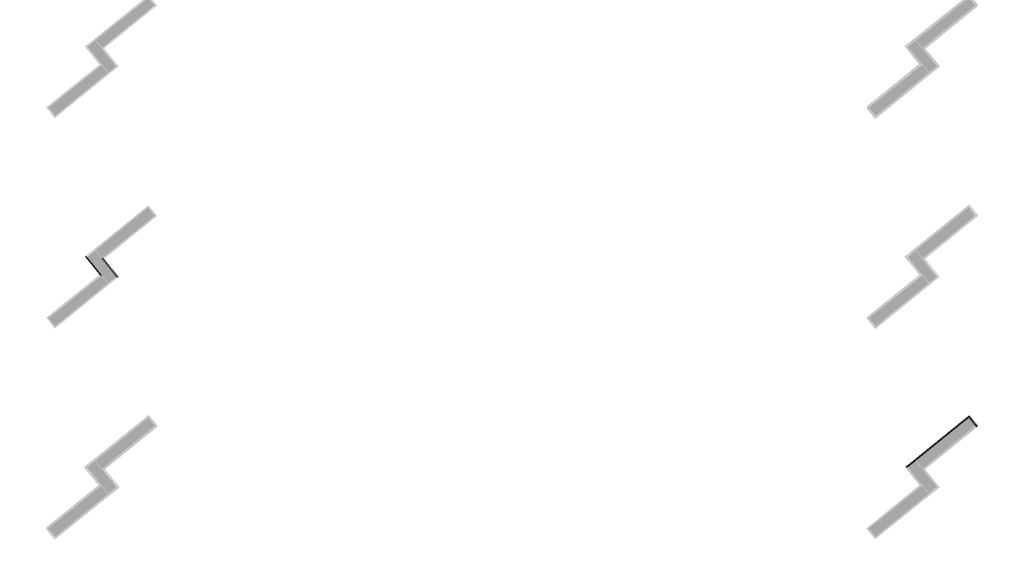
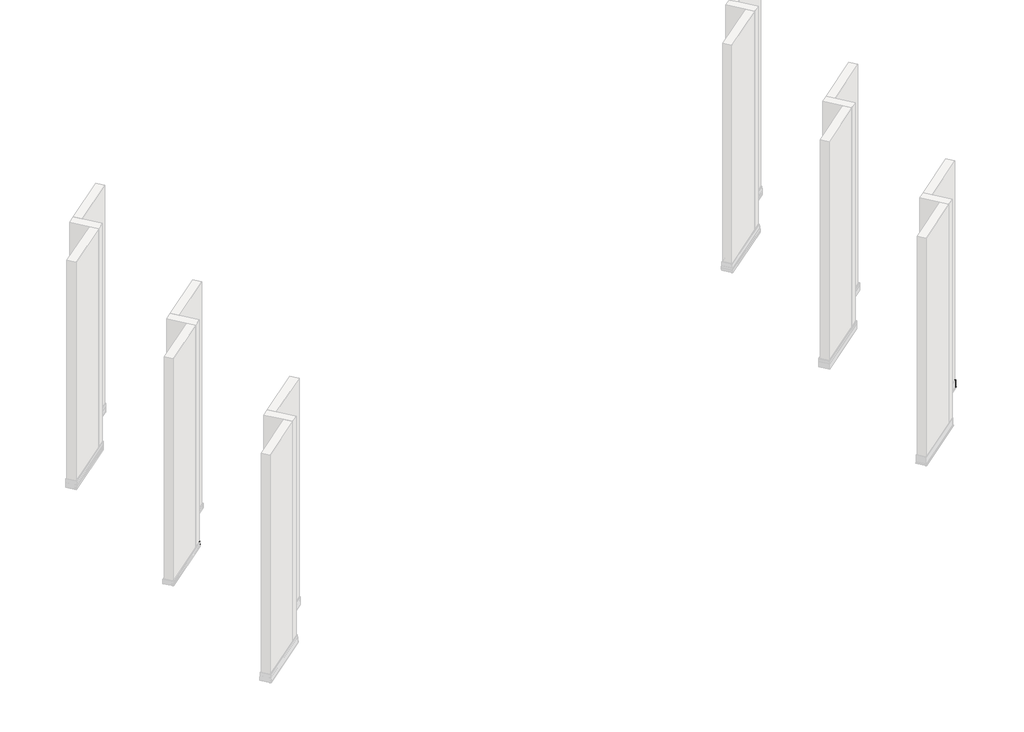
# One storey, part 5 of 21: 3 proxies.
"""IFC4 building model written with IfcOpenShell, lengths in millimetres."""

from ifc_helpers import new_model, si_unit, frame, origin, place, context, project, spatial, polyline, circle_curve, ellipse_curve, element, save
from ifc_brep_helpers import plane_surface, cylinder_surface, revolved_surface, advanced_brep

model = new_model("IFC4")

# Units and contexts
model_context = context("Model", 3, world=origin())
ifc_project = project(units=[si_unit("LENGTHUNIT", "METRE", prefix="MILLI")], contexts=[model_context])

# Site, building, storey
site = spatial("IfcSite", under=ifc_project)
building = spatial("IfcBuilding", under=site)
storey = spatial("IfcBuildingStorey", under=building, Name="Izofleks 2D View", Elevation=0.0)

# Proxies
placement = place(None, origin())
element("IfcBuildingElementProxy", 1, Name="Wall Sweeps", at=placement, inside=storey, context=model_context, shape_type="AdvancedBrep", body=[
    advanced_brep(
    [(2292.1668459, -7174.088255, 49.8941385), (2293.8573559, -7174.2659347, 56.3978398), (2295.2404015, -7174.4112987, 57.2161063), (2298.9439622, -7174.8005586, 57.2161063), (2298.9439622, -7174.8005586, 58.5), (2289.5206376, -7173.8101273, 58.5), (2289.5206376, -7173.8101273, 60.0), (2300.7723685, -7174.9927318, 60.0), (2300.7723685, -7174.9927318, 2.9583289), (2297.9590138, -7174.6970364, 2.9583289), (2297.9590138, -7174.6970364, 0.4656126), (2296.1306076, -7174.5048631, 0.4656126), (2296.1306076, -7174.5048631, 4.2583289), (2298.9439622, -7174.8005586, 4.2583289), (2298.9439622, -7174.8005586, 28.7655004), (2295.5576132, -7174.444639, 28.7655004), (2295.2879611, -7174.4162974, 27.7479135), (2296.6513787, -7174.5595984, 27.7479135), (2297.3367663, -7174.6316355, 27.1404306), (2294.6001982, -7174.3440106, 18.30079), (2296.8922655, -7174.5849166, 18.30079), (2296.8983438, -7174.5855554, 16.99999), (2289.8664199, -7173.8464705, 16.99999), (2289.8664199, -7173.8464705, 0.0), (2288.0380278, -7173.6542987, 0.0), (2288.0380278, -7173.6542987, 54.99999), (2289.8664199, -7173.8464705, 53.99999), (2289.8664199, -7173.8464705, 47.88979), (2292.7262724, -7174.1470531, 47.88979), (2293.3129652, -7174.208717, 48.7266957), (2430.6173319, -7345.0603665, 49.8941385), (2431.7634513, -7345.1808285, 48.7266957), (2431.1767584, -7345.1191646, 47.88979), (2428.316906, -7344.818582, 47.88979), (2428.316906, -7344.818582, 53.99999), (2426.4885138, -7344.6264102, 54.99999), (2426.4885138, -7344.6264102, 0.0), (2428.316906, -7344.818582, 0.0), (2428.316906, -7344.818582, 16.99999), (2435.3488299, -7345.557667, 16.99999), (2435.3427515, -7345.5570281, 18.30079), (2433.0506843, -7345.3161221, 18.30079), (2435.7872524, -7345.603747, 27.1404306), (2435.1018647, -7345.5317099, 27.7479135), (2433.7384472, -7345.3884089, 27.7479135), (2434.0080992, -7345.4167505, 28.7655004), (2437.3944482, -7345.7726701, 28.7655004), (2437.3944482, -7345.7726701, 4.2583289), (2434.5810936, -7345.4769746, 4.2583289), (2434.5810936, -7345.4769746, 0.4656126), (2436.4094999, -7345.6691479, 0.4656126), (2436.4094999, -7345.6691479, 2.9583289), (2439.2228545, -7345.9648434, 2.9583289), (2439.2228545, -7345.9648434, 60.0), (2427.9711237, -7344.7822388, 60.0), (2427.9711237, -7344.7822388, 58.5), (2437.3944482, -7345.7726701, 58.5), (2437.3944482, -7345.7726701, 57.2161063), (2433.6908876, -7345.3834102, 57.2161063), (2432.307842, -7345.2380463, 56.3978398)],
    [
        (0, 1),
        (1, 2, ellipse_curve(frame((2295.2404015, -7174.4112987, 56.2161063), z_axis=(0.10452846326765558, 0.9945218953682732, 0.0), x_axis=(-0.9945218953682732, 0.10452846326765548, 0.0)), 1.4142136, 1.0)),
        (2, 3),
        (3, 4),
        (4, 5),
        (5, 6),
        (6, 7),
        (7, 8),
        (8, 9),
        (9, 10),
        (10, 11),
        (11, 12),
        (12, 13),
        (13, 14),
        (14, 15),
        (15, 16),
        (16, 17),
        (17, 18, ellipse_curve(frame((2296.6499722, -7174.5594505, 27.2479135), z_axis=(0.10452846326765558, 0.9945218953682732, 0.0), x_axis=(-0.9945218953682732, 0.10452846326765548, 0.0)), 0.7071082, 0.500001)),
        (18, 19),
        (19, 20),
        (20, 21, ellipse_curve(frame((2296.7280877, -7174.5676608, 17.649995), z_axis=(0.10452846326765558, 0.9945218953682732, 0.0), x_axis=(-0.9945218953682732, 0.10452846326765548, 0.0)), 0.935051, 0.6611809)),
        (21, 22),
        (22, 23),
        (23, 24),
        (24, 25),
        (25, 26, ellipse_curve(frame((2288.3885058, -7173.6911354, 53.9789482), z_axis=(0.10452846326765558, 0.9945218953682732, 0.0), x_axis=(-0.9945218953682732, 0.10452846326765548, 0.0)), 1.4863528, 1.0510102)),
        (26, 27),
        (27, 28),
        (28, 29),
        (29, 0, ellipse_curve(frame((2293.5498915, -7174.2336189, 49.712405), z_axis=(0.10452846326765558, 0.9945218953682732, 0.0), x_axis=(-0.9945218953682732, 0.10452846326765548, 0.0)), 1.4142136, 1.0)),
        (30, 31, ellipse_curve(frame((2432.0003775, -7345.2057304, 49.712405), z_axis=(-0.1045284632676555, -0.9945218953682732, 0.0), x_axis=(-0.9945218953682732, 0.1045284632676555, 0.0)), 1.4142136, 1.0)),
        (31, 32),
        (32, 33),
        (33, 34),
        (34, 35, ellipse_curve(frame((2426.8389918, -7344.663247, 53.9789482), z_axis=(-0.1045284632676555, -0.9945218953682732, 0.0), x_axis=(-0.9945218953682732, 0.1045284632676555, 0.0)), 1.4863528, 1.0510102)),
        (35, 36),
        (36, 37),
        (37, 38),
        (38, 39),
        (39, 40, ellipse_curve(frame((2435.1785737, -7345.5397723, 17.649995), z_axis=(-0.1045284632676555, -0.9945218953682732, 0.0), x_axis=(-0.9945218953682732, 0.1045284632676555, 0.0)), 0.935051, 0.6611809)),
        (40, 41),
        (41, 42),
        (42, 43, ellipse_curve(frame((2435.1004582, -7345.5315621, 27.2479135), z_axis=(-0.1045284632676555, -0.9945218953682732, 0.0), x_axis=(-0.9945218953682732, 0.1045284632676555, 0.0)), 0.7071082, 0.500001)),
        (43, 44),
        (44, 45),
        (45, 46),
        (46, 47),
        (47, 48),
        (48, 49),
        (49, 50),
        (50, 51),
        (51, 52),
        (52, 53),
        (53, 54),
        (54, 55),
        (55, 56),
        (56, 57),
        (57, 58),
        (58, 59, ellipse_curve(frame((2433.6908876, -7345.3834102, 56.2161063), z_axis=(-0.1045284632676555, -0.9945218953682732, 0.0), x_axis=(-0.9945218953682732, 0.1045284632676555, 0.0)), 1.4142136, 1.0)),
        (59, 30),
        (0, 30),
        (59, 1),
        (58, 2),
        (57, 3),
        (56, 4),
        (55, 5),
        (54, 6),
        (53, 7),
        (52, 8),
        (51, 9),
        (50, 10),
        (49, 11),
        (48, 12),
        (47, 13),
        (46, 14),
        (45, 15),
        (44, 16),
        (43, 17),
        (42, 18),
        (41, 19),
        (40, 20),
        (39, 21),
        (38, 22),
        (37, 23),
        (36, 24),
        (35, 25),
        (34, 26),
        (33, 27),
        (32, 28),
        (31, 29),
    ],
    [
        plane_surface(frame((2288.0380278, -7173.6542987, -304.8), z_axis=(0.10452846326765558, 0.9945218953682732, 0.0), x_axis=(0.9945218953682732, -0.10452846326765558, 0.0))),
        plane_surface(frame((2426.4885138, -7344.6264102, 304.8), z_axis=(-0.1045284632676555, -0.9945218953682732, 0.0), x_axis=(-0.9945218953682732, 0.1045284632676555, 0.0))),
        plane_surface(frame((2292.1668459, -7174.088255, 49.8941385), z_axis=(-0.7642047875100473, -0.618840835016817, 0.1817334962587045), x_axis=(0.629320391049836, -0.7771459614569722, 0.0))),
        cylinder_surface(frame((2292.0177146, -7170.4316118, 56.2161063), z_axis=(-0.629320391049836, 0.7771459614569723, 0.0), x_axis=(-0.7642047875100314, -0.618840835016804, 0.1817334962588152)), 1.0),
        plane_surface(frame((2295.2404015, -7174.4112987, 57.2161063), z_axis=(0.0, 0.0, 1.0), x_axis=(0.6293203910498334, -0.7771459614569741, 0.0))),
        plane_surface(frame((2298.9439622, -7174.8005586, 57.2161063), z_axis=(-0.7771459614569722, -0.629320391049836, 0.0), x_axis=(0.629320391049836, -0.7771459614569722, 0.0))),
        plane_surface(frame((2298.9439622, -7174.8005586, 58.5), z_axis=(0.0, 0.0, -1.0000000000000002), x_axis=(0.629320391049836, -0.7771459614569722, 0.0))),
        plane_surface(frame((2289.5206376, -7173.8101273, 58.5), z_axis=(-0.7771459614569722, -0.629320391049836, 0.0), x_axis=(0.629320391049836, -0.7771459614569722, 0.0))),
        plane_surface(frame((2289.5206376, -7173.8101273, 60.0), z_axis=(0.0, 0.0, 1.0000000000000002), x_axis=(0.629320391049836, -0.7771459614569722, 0.0))),
        plane_surface(frame((2300.7723685, -7174.9927318, 60.0), z_axis=(0.7771459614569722, 0.629320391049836, 0.0), x_axis=(0.629320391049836, -0.7771459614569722, 0.0))),
        plane_surface(frame((2300.7723685, -7174.9927318, 2.9583289), z_axis=(0.0, 0.0, -1.0000000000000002), x_axis=(0.629320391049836, -0.7771459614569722, 0.0))),
        plane_surface(frame((2297.9590138, -7174.6970364, 2.9583289), z_axis=(0.7771459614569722, 0.629320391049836, 0.0), x_axis=(0.629320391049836, -0.7771459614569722, 0.0))),
        plane_surface(frame((2297.9590138, -7174.6970364, 0.4656126), z_axis=(0.0, 0.0, -1.0000000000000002), x_axis=(0.629320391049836, -0.7771459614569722, 0.0))),
        plane_surface(frame((2296.1306076, -7174.5048631, 0.4656126), z_axis=(-0.7771459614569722, -0.629320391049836, 0.0), x_axis=(0.629320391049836, -0.7771459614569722, 0.0))),
        plane_surface(frame((2296.1306076, -7174.5048631, 4.2583289), z_axis=(0.0, 0.0, 1.0000000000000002), x_axis=(0.629320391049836, -0.7771459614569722, 0.0))),
        plane_surface(frame((2298.9439622, -7174.8005586, 4.2583289), z_axis=(-0.7771459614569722, -0.629320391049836, 0.0), x_axis=(0.629320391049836, -0.7771459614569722, 0.0))),
        plane_surface(frame((2298.9439622, -7174.8005586, 28.7655004), z_axis=(0.0, 0.0, -1.0000000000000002), x_axis=(0.629320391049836, -0.7771459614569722, 0.0))),
        plane_surface(frame((2295.5576132, -7174.444639, 28.7655004), z_axis=(0.7637090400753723, 0.6184393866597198, -0.18515190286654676), x_axis=(0.629320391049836, -0.7771459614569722, 0.0))),
        plane_surface(frame((2295.2879611, -7174.4162974, 27.7479135), z_axis=(0.0, 0.0, 1.0000000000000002), x_axis=(0.629320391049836, -0.7771459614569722, 0.0))),
        cylinder_surface(frame((2292.7965759, -7169.8009024, 27.2479135), z_axis=(-0.6293203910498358, 0.7771459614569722, 0.0), x_axis=(0.7771459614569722, 0.6293203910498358, 0.0)), 0.500001),
        plane_surface(frame((2297.3367663, -7174.6316355, 27.1404306), z_axis=(0.7589775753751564, 0.6146079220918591, -0.2149654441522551), x_axis=(0.629320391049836, -0.7771459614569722, 0.0))),
        plane_surface(frame((2294.6001982, -7174.3440106, 18.30079), z_axis=(0.0, 0.0, 1.0000000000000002), x_axis=(0.629320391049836, -0.7771459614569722, 0.0))),
        cylinder_surface(frame((2292.8397388, -7169.7659498, 17.649995), z_axis=(-0.6293203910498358, 0.7771459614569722, 0.0), x_axis=(0.7771459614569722, 0.6293203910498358, 0.0)), 0.6611809),
        plane_surface(frame((2296.8983438, -7174.5855554, 16.99999), z_axis=(0.0, 0.0, -1.0000000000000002), x_axis=(0.629320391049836, -0.7771459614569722, 0.0))),
        plane_surface(frame((2289.8664199, -7173.8464705, 16.99999), z_axis=(0.7771459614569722, 0.629320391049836, 0.0), x_axis=(0.629320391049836, -0.7771459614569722, 0.0))),
        plane_surface(frame((2289.8664199, -7173.8464705, 0.0), z_axis=(0.0, 0.0, -1.0000000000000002), x_axis=(0.629320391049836, -0.7771459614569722, 0.0))),
        plane_surface(frame((2288.0380278, -7173.6542987, 0.0), z_axis=(-0.7771459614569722, -0.629320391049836, 0.0), x_axis=(0.629320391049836, -0.7771459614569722, 0.0))),
        cylinder_surface(frame((2288.2316851, -7173.497478, 53.9789482), z_axis=(-0.6293203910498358, 0.7771459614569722, 0.0), x_axis=(0.7771459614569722, 0.6293203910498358, 0.0)), 1.0510102),
        plane_surface(frame((2289.8664199, -7173.8464705, 53.99999), z_axis=(0.7771459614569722, 0.629320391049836, 0.0), x_axis=(0.629320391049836, -0.7771459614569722, 0.0))),
        plane_surface(frame((2289.8664199, -7173.8464705, 47.88979), z_axis=(0.0, 0.0, 1.0000000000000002), x_axis=(0.629320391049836, -0.7771459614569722, 0.0))),
        plane_surface(frame((2292.7262724, -7174.1470531, 47.88979), z_axis=(-0.6955364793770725, -0.5632343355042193, 0.44608977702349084), x_axis=(0.629320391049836, -0.7771459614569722, 0.0))),
        cylinder_surface(frame((2291.0836197, -7171.1880269, 49.712405), z_axis=(-0.6293203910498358, 0.7771459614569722, 0.0), x_axis=(0.7771459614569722, 0.6293203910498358, 0.0)), 1.0),
    ],
    [
        (0, [[1, 2, 3, 4, 5, 6, 7, 8, 9, 10, 11, 12, 13, 14, 15, 16, 17, 18, 19, 20, 21, 22, 23, 24, 25, 26, 27, 28, 29, 30]]),
        (1, [[31, 32, 33, 34, 35, 36, 37, 38, 39, 40, 41, 42, 43, 44, 45, 46, 47, 48, 49, 50, 51, 52, 53, 54, 55, 56, 57, 58, 59, 60]]),
        (2, [[-1, 61, -60, 62]]),
        (3, [[-2, -62, -59, 63]]),
        (4, [[-3, -63, -58, 64]]),
        (5, [[-4, -64, -57, 65]]),
        (6, [[-5, -65, -56, 66]]),
        (7, [[-6, -66, -55, 67]]),
        (8, [[-7, -67, -54, 68]]),
        (9, [[-8, -68, -53, 69]]),
        (10, [[-9, -69, -52, 70]]),
        (11, [[-10, -70, -51, 71]]),
        (12, [[-11, -71, -50, 72]]),
        (13, [[-12, -72, -49, 73]]),
        (14, [[-13, -73, -48, 74]]),
        (15, [[-14, -74, -47, 75]]),
        (16, [[-15, -75, -46, 76]]),
        (17, [[-16, -76, -45, 77]]),
        (18, [[-17, -77, -44, 78]]),
        (19, [[-18, -78, -43, 79]]),
        (20, [[-19, -79, -42, 80]]),
        (21, [[-20, -80, -41, 81]]),
        (22, [[-21, -81, -40, 82]]),
        (23, [[-22, -82, -39, 83]]),
        (24, [[-23, -83, -38, 84]]),
        (25, [[-24, -84, -37, 85]]),
        (26, [[-25, -85, -36, 86]]),
        (27, [[-26, -86, -35, 87]]),
        (28, [[-27, -87, -34, 88]]),
        (29, [[-28, -88, -33, 89]]),
        (30, [[-29, -89, -32, 90]]),
        (31, [[-30, -90, -31, -61]]),
    ],
),
])
element("IfcBuildingElementProxy", 2, Name="Wall Sweeps", at=placement, inside=storey, context=model_context, shape_type="AdvancedBrep", body=[
    advanced_brep(
    [(2143.2625744, -7158.4377854, 49.8941385), (2142.116455, -7158.3173234, 48.7266957), (2142.7031479, -7158.3789873, 47.88979), (2145.5630003, -7158.6795699, 47.88979), (2145.5630003, -7158.6795699, 53.99999), (2147.3913925, -7158.8717417, 54.99999), (2147.3913925, -7158.8717417, 0.0), (2145.5630003, -7158.6795699, 0.0), (2145.5630003, -7158.6795699, 16.99999), (2138.5310764, -7157.9404849, 16.99999), (2138.5371548, -7157.9411238, 18.30079), (2140.829222, -7158.1820298, 18.30079), (2138.0926539, -7157.8944049, 27.1404306), (2138.7780416, -7157.966442, 27.7479135), (2140.1414591, -7158.109743, 27.7479135), (2139.8718071, -7158.0814014, 28.7655004), (2136.485458, -7157.7254818, 28.7655004), (2136.485458, -7157.7254818, 4.2583289), (2139.2988127, -7158.0211772, 4.2583289), (2139.2988127, -7158.0211772, 0.4656126), (2137.4704064, -7157.829004, 0.4656126), (2137.4704064, -7157.829004, 2.9583289), (2134.6570518, -7157.5333085, 2.9583289), (2134.6570518, -7157.5333085, 60.0), (2145.9087826, -7158.7159131, 60.0), (2145.9087826, -7158.7159131, 58.5), (2136.485458, -7157.7254818, 58.5), (2136.485458, -7157.7254818, 57.2161063), (2140.1890187, -7158.1147417, 57.2161063), (2141.5720643, -7158.2601056, 56.3978398), (2281.7130604, -7329.4098969, 49.8941385), (2280.0225504, -7329.2322171, 56.3978398), (2278.6395047, -7329.0868532, 57.2161063), (2274.9359441, -7328.6975933, 57.2161063), (2274.9359441, -7328.6975933, 58.5), (2284.3592686, -7329.6880246, 58.5), (2284.3592686, -7329.6880246, 60.0), (2273.1075378, -7328.50542, 60.0), (2273.1075378, -7328.50542, 2.9583289), (2275.9208925, -7328.8011155, 2.9583289), (2275.9208925, -7328.8011155, 0.4656126), (2277.7492987, -7328.9932888, 0.4656126), (2277.7492987, -7328.9932888, 4.2583289), (2274.9359441, -7328.6975933, 4.2583289), (2274.9359441, -7328.6975933, 28.7655004), (2278.3222931, -7329.0535129, 28.7655004), (2278.5919451, -7329.0818545, 27.7479135), (2277.2285276, -7328.9385535, 27.7479135), (2276.54314, -7328.8665164, 27.1404306), (2279.279708, -7329.1541413, 18.30079), (2276.9876408, -7328.9132353, 18.30079), (2276.9815625, -7328.9125964, 16.99999), (2284.0134863, -7329.6516814, 16.99999), (2284.0134863, -7329.6516814, 0.0), (2285.8418785, -7329.8438532, 0.0), (2285.8418785, -7329.8438532, 54.99999), (2284.0134863, -7329.6516814, 53.99999), (2284.0134863, -7329.6516814, 47.88979), (2281.1536339, -7329.3510988, 47.88979), (2280.566941, -7329.2894349, 48.7266957)],
    [
        (0, 1, ellipse_curve(frame((2141.8795288, -7158.2924214, 49.712405), z_axis=(0.10452846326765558, 0.9945218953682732, 0.0), x_axis=(-0.9945218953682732, 0.10452846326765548, 0.0)), 1.4142136, 1.0)),
        (1, 2),
        (2, 3),
        (3, 4),
        (4, 5, ellipse_curve(frame((2147.0409144, -7158.8349049, 53.9789482), z_axis=(0.10452846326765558, 0.9945218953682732, 0.0), x_axis=(-0.9945218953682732, 0.10452846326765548, 0.0)), 1.4863528, 1.0510102)),
        (5, 6),
        (6, 7),
        (7, 8),
        (8, 9),
        (9, 10, ellipse_curve(frame((2138.7013325, -7157.9583796, 17.649995), z_axis=(0.10452846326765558, 0.9945218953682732, 0.0), x_axis=(-0.9945218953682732, 0.10452846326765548, 0.0)), 0.935051, 0.6611809)),
        (10, 11),
        (11, 12),
        (12, 13, ellipse_curve(frame((2138.7794481, -7157.9665898, 27.2479135), z_axis=(0.10452846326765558, 0.9945218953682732, 0.0), x_axis=(-0.9945218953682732, 0.10452846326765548, 0.0)), 0.7071082, 0.500001)),
        (13, 14),
        (14, 15),
        (15, 16),
        (16, 17),
        (17, 18),
        (18, 19),
        (19, 20),
        (20, 21),
        (21, 22),
        (22, 23),
        (23, 24),
        (24, 25),
        (25, 26),
        (26, 27),
        (27, 28),
        (28, 29, ellipse_curve(frame((2140.1890187, -7158.1147417, 56.2161063), z_axis=(0.10452846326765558, 0.9945218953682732, 0.0), x_axis=(-0.9945218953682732, 0.10452846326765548, 0.0)), 1.4142136, 1.0)),
        (29, 0),
        (30, 31),
        (31, 32, ellipse_curve(frame((2278.6395047, -7329.0868532, 56.2161063), z_axis=(-0.1045284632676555, -0.9945218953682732, 0.0), x_axis=(-0.9945218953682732, 0.1045284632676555, 0.0)), 1.4142136, 1.0)),
        (32, 33),
        (33, 34),
        (34, 35),
        (35, 36),
        (36, 37),
        (37, 38),
        (38, 39),
        (39, 40),
        (40, 41),
        (41, 42),
        (42, 43),
        (43, 44),
        (44, 45),
        (45, 46),
        (46, 47),
        (47, 48, ellipse_curve(frame((2277.2299341, -7328.9387013, 27.2479135), z_axis=(-0.1045284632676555, -0.9945218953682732, 0.0), x_axis=(-0.9945218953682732, 0.1045284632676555, 0.0)), 0.7071082, 0.500001)),
        (48, 49),
        (49, 50),
        (50, 51, ellipse_curve(frame((2277.1518186, -7328.9304911, 17.649995), z_axis=(-0.1045284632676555, -0.9945218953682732, 0.0), x_axis=(-0.9945218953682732, 0.1045284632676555, 0.0)), 0.935051, 0.6611809)),
        (51, 52),
        (52, 53),
        (53, 54),
        (54, 55),
        (55, 56, ellipse_curve(frame((2285.4914005, -7329.8070165, 53.9789482), z_axis=(-0.1045284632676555, -0.9945218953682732, 0.0), x_axis=(-0.9945218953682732, 0.1045284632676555, 0.0)), 1.4863528, 1.0510102)),
        (56, 57),
        (57, 58),
        (58, 59),
        (59, 30, ellipse_curve(frame((2280.3300148, -7329.264533, 49.712405), z_axis=(-0.1045284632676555, -0.9945218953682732, 0.0), x_axis=(-0.9945218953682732, 0.1045284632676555, 0.0)), 1.4142136, 1.0)),
        (0, 30),
        (59, 1),
        (58, 2),
        (57, 3),
        (56, 4),
        (55, 5),
        (54, 6),
        (53, 7),
        (52, 8),
        (51, 9),
        (50, 10),
        (49, 11),
        (48, 12),
        (47, 13),
        (46, 14),
        (45, 15),
        (44, 16),
        (43, 17),
        (42, 18),
        (41, 19),
        (40, 20),
        (39, 21),
        (38, 22),
        (37, 23),
        (36, 24),
        (35, 25),
        (34, 26),
        (33, 27),
        (32, 28),
        (31, 29),
    ],
    [
        plane_surface(frame((2147.3913925, -7158.8717417, -304.8), z_axis=(0.10452846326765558, 0.9945218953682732, 0.0), x_axis=(0.9945218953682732, -0.10452846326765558, 0.0))),
        plane_surface(frame((2285.8418785, -7329.8438532, 304.8), z_axis=(-0.1045284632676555, -0.9945218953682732, 0.0), x_axis=(-0.9945218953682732, 0.1045284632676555, 0.0))),
        cylinder_surface(frame((2144.3458005, -7161.3380134, 49.712405), z_axis=(-0.6293203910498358, 0.7771459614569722, 0.0), x_axis=(-0.7771459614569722, -0.6293203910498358, 0.0)), 1.0),
        plane_surface(frame((2142.116455, -7158.3173234, 48.7266957), z_axis=(0.6955364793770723, 0.5632343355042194, 0.4460897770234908), x_axis=(0.6293203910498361, -0.777145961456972, 0.0))),
        plane_surface(frame((2142.7031479, -7158.3789873, 47.88979), z_axis=(0.0, 0.0, 1.0), x_axis=(0.6293203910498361, -0.777145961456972, 0.0))),
        plane_surface(frame((2145.5630003, -7158.6795699, 47.88979), z_axis=(-0.777145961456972, -0.6293203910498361, 0.0), x_axis=(0.6293203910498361, -0.777145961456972, 0.0))),
        cylinder_surface(frame((2147.1977351, -7159.0285623, 53.9789482), z_axis=(-0.6293203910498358, 0.7771459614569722, 0.0), x_axis=(-0.7771459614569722, -0.6293203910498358, 0.0)), 1.0510102),
        plane_surface(frame((2147.3913925, -7158.8717417, 54.99999), z_axis=(0.777145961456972, 0.6293203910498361, 0.0), x_axis=(0.6293203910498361, -0.777145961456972, 0.0))),
        plane_surface(frame((2147.3913925, -7158.8717417, 0.0), z_axis=(0.0, 0.0, -1.0), x_axis=(0.6293203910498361, -0.777145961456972, 0.0))),
        plane_surface(frame((2145.5630003, -7158.6795699, 0.0), z_axis=(-0.777145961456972, -0.6293203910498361, 0.0), x_axis=(0.6293203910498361, -0.777145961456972, 0.0))),
        plane_surface(frame((2145.5630003, -7158.6795699, 16.99999), z_axis=(0.0, 0.0, -1.0), x_axis=(0.6293203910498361, -0.777145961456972, 0.0))),
        cylinder_surface(frame((2142.5896815, -7162.7600906, 17.649995), z_axis=(-0.6293203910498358, 0.7771459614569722, 0.0), x_axis=(-0.7771459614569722, -0.6293203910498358, 0.0)), 0.6611809),
        plane_surface(frame((2138.5371548, -7157.9411238, 18.30079), z_axis=(0.0, 0.0, 1.0), x_axis=(0.6293203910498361, -0.777145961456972, 0.0))),
        plane_surface(frame((2140.829222, -7158.1820298, 18.30079), z_axis=(-0.7589775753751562, -0.6146079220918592, -0.21496544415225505), x_axis=(0.6293203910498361, -0.777145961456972, 0.0))),
        cylinder_surface(frame((2142.6328444, -7162.725138, 27.2479135), z_axis=(-0.6293203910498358, 0.7771459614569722, 0.0), x_axis=(-0.7771459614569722, -0.6293203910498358, 0.0)), 0.500001),
        plane_surface(frame((2138.7780416, -7157.966442, 27.7479135), z_axis=(0.0, 0.0, 1.0), x_axis=(0.6293203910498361, -0.777145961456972, 0.0))),
        plane_surface(frame((2140.1414591, -7158.109743, 27.7479135), z_axis=(-0.7637090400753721, -0.6184393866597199, -0.1851519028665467), x_axis=(0.6293203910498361, -0.777145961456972, 0.0))),
        plane_surface(frame((2139.8718071, -7158.0814014, 28.7655004), z_axis=(0.0, 0.0, -1.0), x_axis=(0.6293203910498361, -0.777145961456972, 0.0))),
        plane_surface(frame((2136.485458, -7157.7254818, 28.7655004), z_axis=(0.777145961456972, 0.6293203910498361, 0.0), x_axis=(0.6293203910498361, -0.777145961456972, 0.0))),
        plane_surface(frame((2136.485458, -7157.7254818, 4.2583289), z_axis=(0.0, 0.0, 1.0), x_axis=(0.6293203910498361, -0.777145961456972, 0.0))),
        plane_surface(frame((2139.2988127, -7158.0211772, 4.2583289), z_axis=(0.777145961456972, 0.6293203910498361, 0.0), x_axis=(0.6293203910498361, -0.777145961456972, 0.0))),
        plane_surface(frame((2139.2988127, -7158.0211772, 0.4656126), z_axis=(0.0, 0.0, -1.0), x_axis=(0.6293203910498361, -0.777145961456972, 0.0))),
        plane_surface(frame((2137.4704064, -7157.829004, 0.4656126), z_axis=(-0.777145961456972, -0.6293203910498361, 0.0), x_axis=(0.6293203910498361, -0.777145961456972, 0.0))),
        plane_surface(frame((2137.4704064, -7157.829004, 2.9583289), z_axis=(0.0, 0.0, -1.0), x_axis=(0.6293203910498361, -0.777145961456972, 0.0))),
        plane_surface(frame((2134.6570518, -7157.5333085, 2.9583289), z_axis=(-0.777145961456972, -0.6293203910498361, 0.0), x_axis=(0.6293203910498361, -0.777145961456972, 0.0))),
        plane_surface(frame((2134.6570518, -7157.5333085, 60.0), z_axis=(0.0, 0.0, 1.0), x_axis=(0.6293203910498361, -0.777145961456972, 0.0))),
        plane_surface(frame((2145.9087826, -7158.7159131, 60.0), z_axis=(0.777145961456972, 0.6293203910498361, 0.0), x_axis=(0.6293203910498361, -0.777145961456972, 0.0))),
        plane_surface(frame((2145.9087826, -7158.7159131, 58.5), z_axis=(0.0, 0.0, -1.0), x_axis=(0.6293203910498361, -0.777145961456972, 0.0))),
        plane_surface(frame((2136.485458, -7157.7254818, 58.5), z_axis=(0.777145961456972, 0.6293203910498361, 0.0), x_axis=(0.6293203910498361, -0.777145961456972, 0.0))),
        plane_surface(frame((2136.485458, -7157.7254818, 57.2161063), z_axis=(0.0, 0.0, 1.0), x_axis=(0.6293203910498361, -0.777145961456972, 0.0))),
        cylinder_surface(frame((2143.4117056, -7162.0944286, 56.2161063), z_axis=(-0.629320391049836, 0.7771459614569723, 0.0), x_axis=(0.7642047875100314, 0.618840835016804, 0.1817334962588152)), 1.0),
        plane_surface(frame((2141.5720643, -7158.2601056, 56.3978398), z_axis=(0.7642047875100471, 0.6188408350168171, 0.18173349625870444), x_axis=(0.6293203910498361, -0.777145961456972, 0.0))),
    ],
    [
        (0, [[1, 2, 3, 4, 5, 6, 7, 8, 9, 10, 11, 12, 13, 14, 15, 16, 17, 18, 19, 20, 21, 22, 23, 24, 25, 26, 27, 28, 29, 30]]),
        (1, [[31, 32, 33, 34, 35, 36, 37, 38, 39, 40, 41, 42, 43, 44, 45, 46, 47, 48, 49, 50, 51, 52, 53, 54, 55, 56, 57, 58, 59, 60]]),
        (2, [[-1, 61, -60, 62]]),
        (3, [[-2, -62, -59, 63]]),
        (4, [[-3, -63, -58, 64]]),
        (5, [[-4, -64, -57, 65]]),
        (6, [[-5, -65, -56, 66]]),
        (7, [[-6, -66, -55, 67]]),
        (8, [[-7, -67, -54, 68]]),
        (9, [[-8, -68, -53, 69]]),
        (10, [[-9, -69, -52, 70]]),
        (11, [[-10, -70, -51, 71]]),
        (12, [[-11, -71, -50, 72]]),
        (13, [[-12, -72, -49, 73]]),
        (14, [[-13, -73, -48, 74]]),
        (15, [[-14, -74, -47, 75]]),
        (16, [[-15, -75, -46, 76]]),
        (17, [[-16, -76, -45, 77]]),
        (18, [[-17, -77, -44, 78]]),
        (19, [[-18, -78, -43, 79]]),
        (20, [[-19, -79, -42, 80]]),
        (21, [[-20, -80, -41, 81]]),
        (22, [[-21, -81, -40, 82]]),
        (23, [[-22, -82, -39, 83]]),
        (24, [[-23, -83, -38, 84]]),
        (25, [[-24, -84, -37, 85]]),
        (26, [[-25, -85, -36, 86]]),
        (27, [[-26, -86, -35, 87]]),
        (28, [[-27, -87, -34, 88]]),
        (29, [[-28, -88, -33, 89]]),
        (30, [[-29, -89, -32, 90]]),
        (31, [[-30, -90, -31, -61]]),
    ],
),
])
element("IfcBuildingElementProxy", 3, Name="Wall Sweeps", at=placement, inside=storey, context=model_context, shape_type="AdvancedBrep", body=[
    advanced_brep(
    [(9930.5300792, -9157.0995462, 1.1547005), (9932.0318035, -9157.2573838, 0.0031865), (9933.4700225, -9157.4085467, 0.6666667), (9934.7156145, -9157.5394637, 1.7320508), (9945.9673453, -9158.7220683, 6.350853), (9945.9673453, -9158.7220683, 95.5), (9946.9518718, -9158.8255462, 97.6), (9943.1544126, -9158.4264171, 98.5), (9943.1544126, -9158.4264171, 12.9696551), (9936.1220809, -9157.6872893, 4.3094011), (9931.9026818, -9157.2438126, 2.5773503), (10608.2407004, -8764.1410837, 1.1547005), (10607.482266, -8764.7552518, 2.5773503), (10605.1508281, -8766.643213, 4.3094011), (10601.2650983, -8769.789815, 12.9696551), (10601.2650983, -8769.789815, 98.5), (10599.1668042, -8771.48898, 97.6), (10599.7108063, -8771.0484557, 95.5), (10599.7108063, -8771.0484557, 6.350853), (10605.927974, -8766.0138926, 1.7320508), (10606.6162286, -8765.4565551, 0.6666667), (10607.4109195, -8764.8130271, 0.0031865), (10532.023059, -8670.0201351, 1.1547005), (10531.8787927, -8671.3927377, 2.5773503), (10531.435316, -8675.6121367, 4.3094011), (10530.6961881, -8682.6444685, 12.9696551), (10530.6961881, -8682.6444685, 98.5), (10530.2970591, -8686.4419276, 97.6), (10530.400537, -8685.4574012, 95.5), (10530.400537, -8685.4574012, 6.350853), (10531.5831415, -8674.2056704, 1.7320508), (10531.7140585, -8672.9600783, 0.6666667), (10531.8652215, -8671.5218593, 0.0031865)],
    [
        (0, 1, ellipse_curve(frame((9931.9196137, -9157.2455922, 1.0), z_axis=(-0.10452846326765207, -0.9945218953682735, 0.0), x_axis=(0.9945218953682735, -0.1045284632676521, 0.0)), 1.4142136, 1.0)),
        (1, 2, ellipse_curve(frame((9932.1439933, -9157.2691754, 1.0), z_axis=(-0.10452846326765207, -0.9945218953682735, 0.0), x_axis=(0.9945218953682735, -0.1045284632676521, 0.0)), 1.4142136, 1.0)),
        (2, 3, ellipse_curve(frame((9936.1220809, -9157.6872893, 0.0), z_axis=(0.10452846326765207, 0.9945218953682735, 0.0), x_axis=(-0.9945218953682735, 0.1045284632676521, 0.0)), 2.8284271, 2.0)),
        (3, 4),
        (4, 5),
        (5, 6, ellipse_curve(frame((9950.8899776, -9159.2394578, 95.5), z_axis=(0.10452846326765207, 0.9945218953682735, 0.0), x_axis=(-0.9945218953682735, 0.1045284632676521, 0.0)), 4.9497475, 3.5)),
        (6, 7, ellipse_curve(frame((9945.2641121, -9158.6481555, 98.5), z_axis=(-0.10452846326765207, -0.9945218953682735, 0.0), x_axis=(0.9945218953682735, -0.1045284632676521, 0.0)), 2.1213203, 1.5)),
        (7, 8),
        (8, 9, ellipse_curve(frame((9929.0897491, -9156.9481614, 12.9696551), z_axis=(0.10452846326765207, 0.9945218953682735, 0.0), x_axis=(-0.9945218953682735, 0.10452846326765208, 0.0)), 14.1421356, 10.0)),
        (9, 10),
        (10, 0, ellipse_curve(frame((9933.3091481, -9157.3916381, 0.8452995), z_axis=(-0.10452846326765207, -0.9945218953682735, 0.0), x_axis=(0.9945218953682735, -0.1045284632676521, 0.0)), 2.8284271, 2.0)),
        (11, 12, circle_curve(frame((10606.70512, -8765.3845722, 0.8452995), z_axis=(0.6293203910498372, -0.777145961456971, 0.0), x_axis=(0.7677902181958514, 0.6217442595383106, 0.15470053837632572)), 2.0)),
        (12, 13),
        (13, 14, circle_curve(frame((10609.0365579, -8763.4966111, 12.9696551), z_axis=(-0.6293203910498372, 0.7771459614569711, 0.0), x_axis=(-0.3885729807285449, -0.31466019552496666, -0.8660254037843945)), 10.0)),
        (14, 15),
        (15, 16, circle_curve(frame((10600.0993793, -8770.7337955, 98.5), z_axis=(0.6293203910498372, -0.7771459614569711, 0.0), x_axis=(0.7771459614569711, 0.6293203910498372, 0.0)), 1.5)),
        (16, 17, circle_curve(frame((10596.9907955, -8773.2510771, 95.5), z_axis=(-0.6293203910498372, 0.777145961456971, 0.0), x_axis=(0.6217167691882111, 0.5034563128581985, 0.5999999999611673)), 3.5)),
        (17, 18),
        (18, 19),
        (19, 20, circle_curve(frame((10605.1508281, -8766.643213, 0.0), z_axis=(-0.6293203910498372, 0.7771459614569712, 0.0), x_axis=(0.3885729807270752, 0.3146601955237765, 0.8660254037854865)), 2.0)),
        (20, 21, circle_curve(frame((10607.3489288, -8764.8632261, 1.0), z_axis=(0.6293203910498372, -0.7771459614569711, 0.0), x_axis=(-0.7327002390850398, -0.5933289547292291, -0.33333333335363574)), 1.0)),
        (21, 11, circle_curve(frame((10607.4729102, -8764.762828, 1.0), z_axis=(0.6293203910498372, -0.7771459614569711, 0.0), x_axis=(1.060215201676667e-12, 0.0, -1.0)), 1.0)),
        (11, 22),
        (22, 23, ellipse_curve(frame((10531.7309671, -8672.799204, 0.8452995), z_axis=(0.9945218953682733, -0.10452846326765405, 0.0), x_axis=(-0.10452846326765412, -0.9945218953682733, 0.0)), 2.8284271, 2.0)),
        (23, 12),
        (23, 24),
        (24, 13),
        (24, 25, ellipse_curve(frame((10532.1744438, -8668.579805, 12.9696551), z_axis=(-0.9945218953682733, 0.10452846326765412, 0.0), x_axis=(0.10452846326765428, 0.9945218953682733, 0.0)), 14.1421356, 10.0)),
        (25, 14),
        (25, 26),
        (26, 15),
        (26, 27, ellipse_curve(frame((10530.4744498, -8684.754168, 98.5), z_axis=(0.9945218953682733, -0.10452846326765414, 0.0), x_axis=(-0.10452846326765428, -0.9945218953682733, 0.0)), 2.1213203, 1.5)),
        (27, 16),
        (27, 28, ellipse_curve(frame((10529.8831475, -8690.3800334, 95.5), z_axis=(-0.9945218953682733, 0.10452846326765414, 0.0), x_axis=(0.10452846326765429, 0.9945218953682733, 0.0)), 4.9497475, 3.5)),
        (28, 17),
        (28, 29),
        (29, 18),
        (29, 30),
        (30, 19),
        (30, 31, ellipse_curve(frame((10531.435316, -8675.6121367, 0.0), z_axis=(-0.9945218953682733, 0.10452846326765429, 0.0), x_axis=(0.10452846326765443, 0.9945218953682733, 0.0)), 2.8284271, 2.0)),
        (31, 20),
        (31, 32, ellipse_curve(frame((10531.8534298, -8671.6340491, 1.0), z_axis=(0.9945218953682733, -0.1045284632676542, 0.0), x_axis=(-0.10452846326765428, -0.9945218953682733, 0.0)), 1.4142136, 1.0)),
        (32, 21),
        (32, 22, ellipse_curve(frame((10531.8770131, -8671.4096695, 1.0), z_axis=(0.9945218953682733, -0.10452846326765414, 0.0), x_axis=(-0.10452846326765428, -0.9945218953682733, 0.0)), 1.4142136, 1.0)),
        (22, 0),
        (10, 23),
        (9, 24),
        (8, 25),
        (7, 26),
        (6, 27),
        (5, 28),
        (4, 29),
        (3, 30),
        (2, 31),
        (1, 32),
    ],
    [
        plane_surface(frame((9947.3913925, -9158.8717417, -304.8), z_axis=(-0.10452846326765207, -0.9945218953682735, 0.0), x_axis=(0.9945218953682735, -0.10452846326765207, 0.0))),
        plane_surface(frame((10598.9239461, -8771.6856426, 0.0), z_axis=(0.6293203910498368, -0.7771459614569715, 0.0), x_axis=(-0.7771459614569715, -0.6293203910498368, 0.0))),
        cylinder_surface(frame((10606.70512, -8765.3845722, 0.8452995), z_axis=(0.6293203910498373, -0.7771459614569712, 0.0), x_axis=(0.7677902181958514, 0.6217442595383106, 0.15470053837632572)), 2.0),
        plane_surface(frame((10607.482266, -8764.7552518, 2.5773503), z_axis=(0.3885729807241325, 0.3146601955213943, 0.8660254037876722), x_axis=(-0.629320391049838, 0.7771459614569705, 0.0))),
        revolved_surface(polyline([(10521.995510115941, -8663.954947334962, 4.309401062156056), (10605.150828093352, -8766.643213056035, 4.309401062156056)]), (10609.0365579, -8763.4966111, 12.9696551), (-0.6293203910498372, 0.7771459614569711, 0.0)),
        plane_surface(frame((10601.2650983, -8769.789815, 12.9696551), z_axis=(0.7771459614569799, 0.6293203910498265, 0.0), x_axis=(-0.6293203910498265, 0.7771459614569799, 0.0))),
        cylinder_surface(frame((10600.0993793, -8770.7337955, 98.5), z_axis=(0.6293203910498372, -0.7771459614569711, 0.0), x_axis=(0.7771459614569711, 0.6293203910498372, 0.0)), 1.5),
        revolved_surface(polyline([(10529.856534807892, -8685.897925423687, 97.59999999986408), (10599.16680419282, -8771.488980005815, 97.59999999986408)]), (10596.9907955, -8773.2510771, 95.5), (-0.6293203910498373, 0.7771459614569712, 0.0)),
        plane_surface(frame((10599.7108063, -8771.0484557, 95.5), z_axis=(-0.7771459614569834, -0.6293203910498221, 0.0), x_axis=(-0.6293203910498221, 0.7771459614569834, 0.0))),
        plane_surface(frame((10599.7108063, -8771.0484557, 6.350853), z_axis=(-0.388572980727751, -0.3146601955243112, -0.866025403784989), x_axis=(-0.6293203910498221, 0.7771459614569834, 0.0))),
        revolved_surface(polyline([(10530.95382118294, -8673.42852440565, 1.732050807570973), (10605.927974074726, -8766.01389262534, 1.732050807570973)]), (10605.1508281, -8766.643213, 0.0), (-0.6293203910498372, 0.7771459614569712, 0.0)),
        cylinder_surface(frame((10607.3489288, -8764.8632261, 1.0), z_axis=(0.6293203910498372, -0.7771459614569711, 0.0), x_axis=(-0.7327002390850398, -0.5933289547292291, -0.33333333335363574)), 1.0),
        cylinder_surface(frame((10607.4729102, -8764.762828, 1.0), z_axis=(0.6293203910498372, -0.7771459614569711, 0.0), x_axis=(1.060215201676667e-12, 0.0, -1.0)), 1.0),
        cylinder_surface(frame((10523.9497932, -8679.1002744, 0.8452995), z_axis=(0.7771459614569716, 0.6293203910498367, 0.0), x_axis=(-0.62174425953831, 0.7677902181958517, 0.15470053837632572)), 2.0),
        plane_surface(frame((10531.8787927, -8671.3927377, 2.5773503), z_axis=(-0.31466019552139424, 0.3885729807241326, 0.8660254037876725), x_axis=(-0.7771459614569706, -0.629320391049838, 0.0))),
        revolved_surface(polyline([(9924.464891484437, -9167.127095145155, 4.309401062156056), (10543.092505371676, -8666.172330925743, 4.309401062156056)]), (10522.061832, -8676.7688366, 12.9696551), (-0.7771459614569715, -0.6293203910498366, 0.0)),
        plane_surface(frame((10530.6961881, -8682.6444685, 12.9696551), z_axis=(-0.6293203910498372, 0.7771459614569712, 0.0), x_axis=(-0.7771459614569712, -0.6293203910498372, 0.0))),
        cylinder_surface(frame((10529.2990165, -8685.7060151, 98.5), z_axis=(0.7771459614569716, 0.6293203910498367, 0.0), x_axis=(-0.6293203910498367, 0.7771459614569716, 0.0)), 1.5),
        revolved_surface(polyline([(9946.407869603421, -9159.266070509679, 97.59999999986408), (10530.841061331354, -8686.001403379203, 97.59999999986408)]), (10531.8162981, -8688.814599, 95.5), (-0.7771459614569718, -0.6293203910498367, 0.0)),
        plane_surface(frame((10530.400537, -8685.4574012, 95.5), z_axis=(0.6293203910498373, -0.777145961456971, 0.0), x_axis=(-0.777145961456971, -0.6293203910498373, 0.0))),
        plane_surface(frame((10530.400537, -8685.4574012, 6.350853), z_axis=(0.31466019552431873, -0.3885729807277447, -0.866025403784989), x_axis=(-0.777145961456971, -0.6293203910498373, 0.0))),
        revolved_surface(polyline([(9933.938468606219, -9158.168784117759, 1.732050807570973), (10532.3602875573, -8673.57635001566, 1.732050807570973)]), (10525.208434, -8680.6545664, 0.0), (-0.7771459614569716, -0.6293203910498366, 0.0)),
        cylinder_surface(frame((10523.4284471, -8678.4564656, 1.0), z_axis=(0.7771459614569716, 0.6293203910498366, 0.0), x_axis=(0.5933289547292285, -0.7327002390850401, -0.33333333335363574)), 1.0),
        cylinder_surface(frame((10523.3280489, -8678.3324842, 1.0), z_axis=(0.7771459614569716, 0.6293203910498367, 0.0), x_axis=(0.0, 1.0602152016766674e-12, -1.0)), 1.0),
    ],
    [
        (0, [[1, 2, 3, 4, 5, 6, 7, 8, 9, 10, 11]]),
        (1, [[12, 13, 14, 15, 16, 17, 18, 19, 20, 21, 22]]),
        (2, [[-12, 23, 24, 25]]),
        (3, [[-13, -25, 26, 27]]),
        (4, [[-14, -27, 28, 29]]),
        (5, [[-15, -29, 30, 31]]),
        (6, [[-16, -31, 32, 33]]),
        (7, [[-17, -33, 34, 35]]),
        (8, [[-18, -35, 36, 37]]),
        (9, [[-19, -37, 38, 39]]),
        (10, [[-20, -39, 40, 41]]),
        (11, [[-21, -41, 42, 43]]),
        (12, [[-22, -43, 44, -23]]),
        (13, [[-24, 45, -11, 46]]),
        (14, [[-26, -46, -10, 47]]),
        (15, [[-28, -47, -9, 48]]),
        (16, [[-30, -48, -8, 49]]),
        (17, [[-32, -49, -7, 50]]),
        (18, [[-34, -50, -6, 51]]),
        (19, [[-36, -51, -5, 52]]),
        (20, [[-38, -52, -4, 53]]),
        (21, [[-40, -53, -3, 54]]),
        (22, [[-42, -54, -2, 55]]),
        (23, [[-44, -55, -1, -45]]),
    ],
),
])

save(model, "model.ifc")
